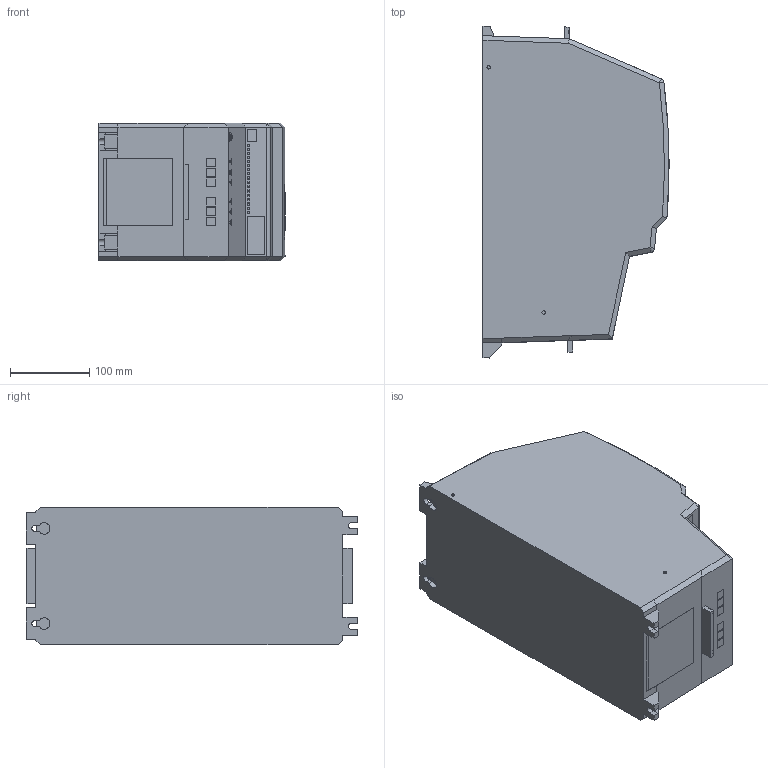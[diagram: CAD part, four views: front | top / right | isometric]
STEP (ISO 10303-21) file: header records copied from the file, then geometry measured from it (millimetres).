
FILE_DESCRIPTION (( 'STEP AP214' ), '1' );
FILE_NAME ('ECO S4 IP20.STEP', '2017-08-15T13:36:29', ( '' ), ( '' ), 'SwSTEP 2.0', 'SolidWorks 2017', '' );
FILE_SCHEMA (( 'AUTOMOTIVE_DESIGN' ));
Length unit declared in the file: millimetre
Products named in the file (1): ECO S4 IP20
Bounding box: 234.81 x 418.77 x 174 mm (x, y, z)
Volume: 13557185.2 mm3; surface area: 370393.6 mm2
Topology: 1 solids, 1 shells, 1093 faces, 2858 edges, 1903 vertices
Faces by surface type: plane 732, bspline 272, cylinder 82, cone 7
Entity records: 46682 total; most frequent: CARTESIAN_POINT 21871, ORIENTED_EDGE 5716, DIRECTION 3913, EDGE_CURVE 2858, VECTOR 2021, LINE 2021, VERTEX_POINT 1903, EDGE_LOOP 1233
